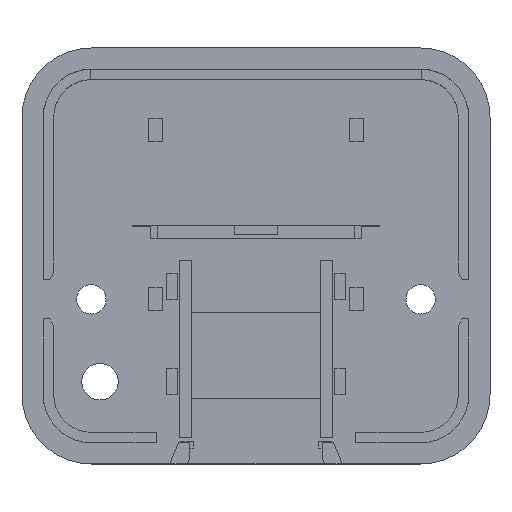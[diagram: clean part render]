
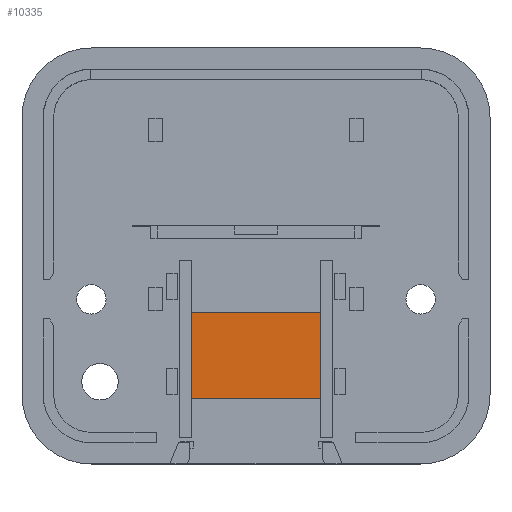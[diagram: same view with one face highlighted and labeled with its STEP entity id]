
A CAD part, top view. The second image highlights one B-rep face of the part: STEP entity #10335.
In plain terms, the highlighted planar face has unit normal (0, 0, 1).
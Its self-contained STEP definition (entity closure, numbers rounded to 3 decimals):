
#1565 = PLANE('',#1566);
#1566 = AXIS2_PLACEMENT_3D('',#1567,#1568,#1569);
#1567 = CARTESIAN_POINT('',(-7.5,-6.5,1.));
#1568 = DIRECTION('',(0.,1.,0.));
#1569 = DIRECTION('',(0.,0.,1.));
#1728 = PLANE('',#1729);
#1729 = AXIS2_PLACEMENT_3D('',#1730,#1731,#1732);
#1730 = CARTESIAN_POINT('',(-7.5,-16.5,1.));
#1731 = DIRECTION('',(0.,1.,0.));
#1732 = DIRECTION('',(0.,0.,1.));
#6179 = EDGE_CURVE('',#6180,#6182,#6184,.T.);
#6180 = VERTEX_POINT('',#6181);
#6181 = CARTESIAN_POINT('',(-7.5,-6.5,1.));
#6182 = VERTEX_POINT('',#6183);
#6183 = CARTESIAN_POINT('',(7.5,-6.5,1.));
#6184 = SURFACE_CURVE('',#6185,(#6189,#6196),.PCURVE_S1.);
#6185 = LINE('',#6186,#6187);
#6186 = CARTESIAN_POINT('',(-7.5,-6.5,1.));
#6187 = VECTOR('',#6188,1.);
#6188 = DIRECTION('',(1.,0.,0.));
#6189 = PCURVE('',#1565,#6190);
#6190 = DEFINITIONAL_REPRESENTATION('',(#6191),#6195);
#6191 = LINE('',#6192,#6193);
#6192 = CARTESIAN_POINT('',(0.,0.));
#6193 = VECTOR('',#6194,1.);
#6194 = DIRECTION('',(0.,1.));
#6195 = ( GEOMETRIC_REPRESENTATION_CONTEXT(2) 
PARAMETRIC_REPRESENTATION_CONTEXT() REPRESENTATION_CONTEXT('2D SPACE',''
  ) );
#6196 = PCURVE('',#6197,#6202);
#6197 = PLANE('',#6198);
#6198 = AXIS2_PLACEMENT_3D('',#6199,#6200,#6201);
#6199 = CARTESIAN_POINT('',(-7.5,-16.5,1.));
#6200 = DIRECTION('',(0.,0.,1.));
#6201 = DIRECTION('',(1.,0.,0.));
#6202 = DEFINITIONAL_REPRESENTATION('',(#6203),#6207);
#6203 = LINE('',#6204,#6205);
#6204 = CARTESIAN_POINT('',(0.,10.));
#6205 = VECTOR('',#6206,1.);
#6206 = DIRECTION('',(1.,0.));
#6207 = ( GEOMETRIC_REPRESENTATION_CONTEXT(2) 
PARAMETRIC_REPRESENTATION_CONTEXT() REPRESENTATION_CONTEXT('2D SPACE',''
  ) );
#6225 = PLANE('',#6226);
#6226 = AXIS2_PLACEMENT_3D('',#6227,#6228,#6229);
#6227 = CARTESIAN_POINT('',(-7.5,-16.5,1.));
#6228 = DIRECTION('',(1.,0.,0.));
#6229 = DIRECTION('',(0.,0.,1.));
#6301 = PLANE('',#6302);
#6302 = AXIS2_PLACEMENT_3D('',#6303,#6304,#6305);
#6303 = CARTESIAN_POINT('',(7.5,-16.5,1.));
#6304 = DIRECTION('',(1.,0.,0.));
#6305 = DIRECTION('',(0.,0.,1.));
#6316 = EDGE_CURVE('',#6317,#6319,#6321,.T.);
#6317 = VERTEX_POINT('',#6318);
#6318 = CARTESIAN_POINT('',(-7.5,-16.5,1.));
#6319 = VERTEX_POINT('',#6320);
#6320 = CARTESIAN_POINT('',(7.5,-16.5,1.));
#6321 = SURFACE_CURVE('',#6322,(#6326,#6333),.PCURVE_S1.);
#6322 = LINE('',#6323,#6324);
#6323 = CARTESIAN_POINT('',(-7.5,-16.5,1.));
#6324 = VECTOR('',#6325,1.);
#6325 = DIRECTION('',(1.,0.,0.));
#6326 = PCURVE('',#1728,#6327);
#6327 = DEFINITIONAL_REPRESENTATION('',(#6328),#6332);
#6328 = LINE('',#6329,#6330);
#6329 = CARTESIAN_POINT('',(0.,0.));
#6330 = VECTOR('',#6331,1.);
#6331 = DIRECTION('',(0.,1.));
#6332 = ( GEOMETRIC_REPRESENTATION_CONTEXT(2) 
PARAMETRIC_REPRESENTATION_CONTEXT() REPRESENTATION_CONTEXT('2D SPACE',''
  ) );
#6333 = PCURVE('',#6197,#6334);
#6334 = DEFINITIONAL_REPRESENTATION('',(#6335),#6339);
#6335 = LINE('',#6336,#6337);
#6336 = CARTESIAN_POINT('',(0.,0.));
#6337 = VECTOR('',#6338,1.);
#6338 = DIRECTION('',(1.,0.));
#6339 = ( GEOMETRIC_REPRESENTATION_CONTEXT(2) 
PARAMETRIC_REPRESENTATION_CONTEXT() REPRESENTATION_CONTEXT('2D SPACE',''
  ) );
#10335 = ADVANCED_FACE('',(#10336),#6197,.T.);
#10336 = FACE_BOUND('',#10337,.T.);
#10337 = EDGE_LOOP('',(#10338,#10359,#10360,#10381));
#10338 = ORIENTED_EDGE('',*,*,#10339,.F.);
#10339 = EDGE_CURVE('',#6317,#6180,#10340,.T.);
#10340 = SURFACE_CURVE('',#10341,(#10345,#10352),.PCURVE_S1.);
#10341 = LINE('',#10342,#10343);
#10342 = CARTESIAN_POINT('',(-7.5,-16.5,1.));
#10343 = VECTOR('',#10344,1.);
#10344 = DIRECTION('',(0.,1.,0.));
#10345 = PCURVE('',#6197,#10346);
#10346 = DEFINITIONAL_REPRESENTATION('',(#10347),#10351);
#10347 = LINE('',#10348,#10349);
#10348 = CARTESIAN_POINT('',(0.,0.));
#10349 = VECTOR('',#10350,1.);
#10350 = DIRECTION('',(0.,1.));
#10351 = ( GEOMETRIC_REPRESENTATION_CONTEXT(2) 
PARAMETRIC_REPRESENTATION_CONTEXT() REPRESENTATION_CONTEXT('2D SPACE',''
  ) );
#10352 = PCURVE('',#6225,#10353);
#10353 = DEFINITIONAL_REPRESENTATION('',(#10354),#10358);
#10354 = LINE('',#10355,#10356);
#10355 = CARTESIAN_POINT('',(0.,0.));
#10356 = VECTOR('',#10357,1.);
#10357 = DIRECTION('',(0.,-1.));
#10358 = ( GEOMETRIC_REPRESENTATION_CONTEXT(2) 
PARAMETRIC_REPRESENTATION_CONTEXT() REPRESENTATION_CONTEXT('2D SPACE',''
  ) );
#10359 = ORIENTED_EDGE('',*,*,#6316,.T.);
#10360 = ORIENTED_EDGE('',*,*,#10361,.T.);
#10361 = EDGE_CURVE('',#6319,#6182,#10362,.T.);
#10362 = SURFACE_CURVE('',#10363,(#10367,#10374),.PCURVE_S1.);
#10363 = LINE('',#10364,#10365);
#10364 = CARTESIAN_POINT('',(7.5,-16.5,1.));
#10365 = VECTOR('',#10366,1.);
#10366 = DIRECTION('',(0.,1.,0.));
#10367 = PCURVE('',#6197,#10368);
#10368 = DEFINITIONAL_REPRESENTATION('',(#10369),#10373);
#10369 = LINE('',#10370,#10371);
#10370 = CARTESIAN_POINT('',(15.,0.));
#10371 = VECTOR('',#10372,1.);
#10372 = DIRECTION('',(0.,1.));
#10373 = ( GEOMETRIC_REPRESENTATION_CONTEXT(2) 
PARAMETRIC_REPRESENTATION_CONTEXT() REPRESENTATION_CONTEXT('2D SPACE',''
  ) );
#10374 = PCURVE('',#6301,#10375);
#10375 = DEFINITIONAL_REPRESENTATION('',(#10376),#10380);
#10376 = LINE('',#10377,#10378);
#10377 = CARTESIAN_POINT('',(0.,0.));
#10378 = VECTOR('',#10379,1.);
#10379 = DIRECTION('',(0.,-1.));
#10380 = ( GEOMETRIC_REPRESENTATION_CONTEXT(2) 
PARAMETRIC_REPRESENTATION_CONTEXT() REPRESENTATION_CONTEXT('2D SPACE',''
  ) );
#10381 = ORIENTED_EDGE('',*,*,#6179,.F.);
